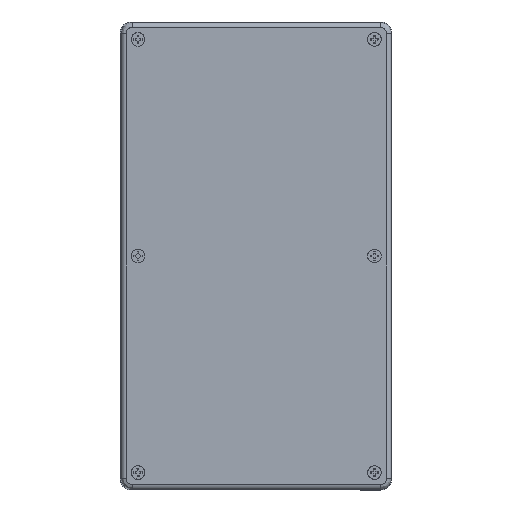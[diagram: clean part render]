
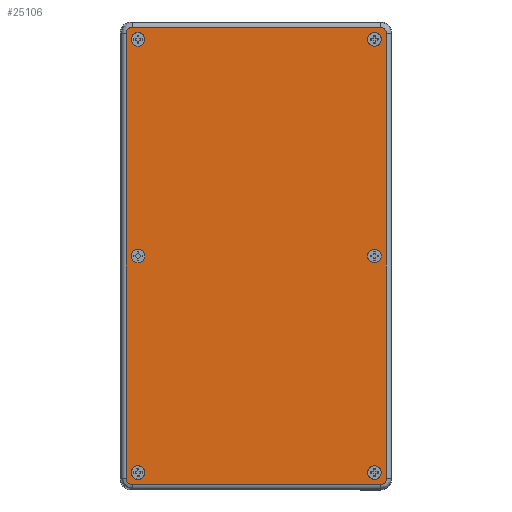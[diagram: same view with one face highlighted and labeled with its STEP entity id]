
A CAD part, top view. The second image highlights one B-rep face of the part: STEP entity #25106.
In plain terms, the highlighted planar face has unit normal (0, 0, 1) as drawn and (0, -1, 0) by its records, which use the part's own axes.
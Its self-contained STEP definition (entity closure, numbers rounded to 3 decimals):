
#432=FACE_BOUND('',#4331,.T.);
#433=FACE_BOUND('',#4332,.T.);
#434=FACE_BOUND('',#4333,.T.);
#435=FACE_BOUND('',#4334,.T.);
#436=FACE_BOUND('',#4335,.T.);
#437=FACE_BOUND('',#4336,.T.);
#1012=PLANE('',#27439);
#1564=CIRCLE('',#27367,2.809);
#1568=CIRCLE('',#27375,2.809);
#1572=CIRCLE('',#27382,2.809);
#1576=CIRCLE('',#27389,2.809);
#1580=CIRCLE('',#27396,2.809);
#1584=CIRCLE('',#27404,2.809);
#2915=FACE_OUTER_BOUND('',#4330,.T.);
#4330=EDGE_LOOP('',(#22458,#22459,#22460,#22461,#22462,#22463,#22464,#22465));
#4331=EDGE_LOOP('',(#22466));
#4332=EDGE_LOOP('',(#22467));
#4333=EDGE_LOOP('',(#22468));
#4334=EDGE_LOOP('',(#22469));
#4335=EDGE_LOOP('',(#22470));
#4336=EDGE_LOOP('',(#22471));
#4950=ELLIPSE('',#27412,2.501,2.5);
#4953=ELLIPSE('',#27418,2.501,2.5);
#4956=ELLIPSE('',#27425,2.501,2.5);
#4959=ELLIPSE('',#27431,2.501,2.5);
#7519=LINE('',#43871,#9641);
#7525=LINE('',#43962,#9647);
#7527=LINE('',#43965,#9649);
#7529=LINE('',#43968,#9651);
#9641=VECTOR('',#33818,10.);
#9647=VECTOR('',#33850,10.);
#9649=VECTOR('',#33854,10.);
#9651=VECTOR('',#33858,10.);
#11792=VERTEX_POINT('',#43444);
#11797=VERTEX_POINT('',#43462);
#11801=VERTEX_POINT('',#43476);
#11805=VERTEX_POINT('',#43490);
#11809=VERTEX_POINT('',#43504);
#11814=VERTEX_POINT('',#43522);
#11821=VERTEX_POINT('',#43812);
#11823=VERTEX_POINT('',#43816);
#11827=VERTEX_POINT('',#43856);
#11829=VERTEX_POINT('',#43860);
#11833=VERTEX_POINT('',#43903);
#11835=VERTEX_POINT('',#43907);
#11839=VERTEX_POINT('',#43947);
#11841=VERTEX_POINT('',#43951);
#15352=EDGE_CURVE('',#11792,#11792,#1564,.F.);
#15362=EDGE_CURVE('',#11797,#11797,#1568,.F.);
#15368=EDGE_CURVE('',#11801,#11801,#1572,.F.);
#15376=EDGE_CURVE('',#11805,#11805,#1576,.F.);
#15382=EDGE_CURVE('',#11809,#11809,#1580,.F.);
#15392=EDGE_CURVE('',#11814,#11814,#1584,.F.);
#15411=EDGE_CURVE('',#11823,#11821,#4950,.T.);
#15418=EDGE_CURVE('',#11829,#11827,#4953,.T.);
#15423=EDGE_CURVE('',#11821,#11829,#7519,.T.);
#15427=EDGE_CURVE('',#11835,#11833,#4956,.T.);
#15434=EDGE_CURVE('',#11841,#11839,#4959,.T.);
#15439=EDGE_CURVE('',#11827,#11841,#7525,.T.);
#15441=EDGE_CURVE('',#11839,#11835,#7527,.T.);
#15443=EDGE_CURVE('',#11833,#11823,#7529,.T.);
#22458=ORIENTED_EDGE('',*,*,#15434,.F.);
#22459=ORIENTED_EDGE('',*,*,#15439,.F.);
#22460=ORIENTED_EDGE('',*,*,#15418,.F.);
#22461=ORIENTED_EDGE('',*,*,#15423,.F.);
#22462=ORIENTED_EDGE('',*,*,#15411,.F.);
#22463=ORIENTED_EDGE('',*,*,#15443,.F.);
#22464=ORIENTED_EDGE('',*,*,#15427,.F.);
#22465=ORIENTED_EDGE('',*,*,#15441,.F.);
#22466=ORIENTED_EDGE('',*,*,#15352,.T.);
#22467=ORIENTED_EDGE('',*,*,#15362,.T.);
#22468=ORIENTED_EDGE('',*,*,#15368,.T.);
#22469=ORIENTED_EDGE('',*,*,#15376,.T.);
#22470=ORIENTED_EDGE('',*,*,#15382,.T.);
#22471=ORIENTED_EDGE('',*,*,#15392,.T.);
#25106=ADVANCED_FACE('',(#2915,#432,#433,#434,#435,#436,#437),#1012,.F.);
#27367=AXIS2_PLACEMENT_3D('',#43445,#33674,#33675);
#27375=AXIS2_PLACEMENT_3D('',#43464,#33696,#33697);
#27382=AXIS2_PLACEMENT_3D('',#43477,#33712,#33713);
#27389=AXIS2_PLACEMENT_3D('',#43492,#33730,#33731);
#27396=AXIS2_PLACEMENT_3D('',#43505,#33746,#33747);
#27404=AXIS2_PLACEMENT_3D('',#43524,#33768,#33769);
#27412=AXIS2_PLACEMENT_3D('',#43818,#33793,#33794);
#27418=AXIS2_PLACEMENT_3D('',#43862,#33807,#33808);
#27425=AXIS2_PLACEMENT_3D('',#43909,#33825,#33826);
#27431=AXIS2_PLACEMENT_3D('',#43953,#33839,#33840);
#27439=AXIS2_PLACEMENT_3D('',#43973,#33865,#33866);
#33674=DIRECTION('center_axis',(0.,-1.,0.));
#33675=DIRECTION('ref_axis',(1.,0.,0.));
#33696=DIRECTION('center_axis',(0.,-1.,0.));
#33697=DIRECTION('ref_axis',(-1.,0.,0.));
#33712=DIRECTION('center_axis',(0.,-1.,0.));
#33713=DIRECTION('ref_axis',(1.,0.,0.));
#33730=DIRECTION('center_axis',(0.,-1.,0.));
#33731=DIRECTION('ref_axis',(1.,0.,0.));
#33746=DIRECTION('center_axis',(0.,-1.,0.));
#33747=DIRECTION('ref_axis',(-1.,0.,0.));
#33768=DIRECTION('center_axis',(0.,-1.,0.));
#33769=DIRECTION('ref_axis',(1.,0.,0.));
#33793=DIRECTION('center_axis',(0.,1.,0.));
#33794=DIRECTION('ref_axis',(0.707,0.,-0.707));
#33807=DIRECTION('center_axis',(0.,1.,0.));
#33808=DIRECTION('ref_axis',(-0.707,0.,-0.707));
#33818=DIRECTION('',(-1.,0.,0.));
#33825=DIRECTION('center_axis',(0.,1.,0.));
#33826=DIRECTION('ref_axis',(0.707,0.,0.707));
#33839=DIRECTION('center_axis',(0.,1.,0.));
#33840=DIRECTION('ref_axis',(-0.707,0.,0.707));
#33850=DIRECTION('',(0.,0.,1.));
#33854=DIRECTION('',(1.,0.,0.));
#33858=DIRECTION('',(0.,0.,-1.));
#33865=DIRECTION('center_axis',(0.,1.,0.));
#33866=DIRECTION('ref_axis',(0.,0.,1.));
#43444=CARTESIAN_POINT('',(-2.809,-3.8,48.1));
#43445=CARTESIAN_POINT('Origin',(0.,-3.8,48.1));
#43462=CARTESIAN_POINT('',(90.909,-3.8,48.1));
#43464=CARTESIAN_POINT('Origin',(88.1,-3.8,48.1));
#43476=CARTESIAN_POINT('',(-90.909,-3.8,48.1));
#43477=CARTESIAN_POINT('Origin',(-88.1,-3.8,48.1));
#43490=CARTESIAN_POINT('',(-2.809,-3.8,-48.1));
#43492=CARTESIAN_POINT('Origin',(0.,-3.8,-48.1));
#43504=CARTESIAN_POINT('',(90.909,-3.8,-48.1));
#43505=CARTESIAN_POINT('Origin',(88.1,-3.8,-48.1));
#43522=CARTESIAN_POINT('',(-90.909,-3.8,-48.1));
#43524=CARTESIAN_POINT('Origin',(-88.1,-3.8,-48.1));
#43812=CARTESIAN_POINT('',(90.469,-3.8,-52.968));
#43816=CARTESIAN_POINT('',(92.968,-3.8,-50.469));
#43818=CARTESIAN_POINT('Origin',(90.468,-3.8,-50.468));
#43856=CARTESIAN_POINT('',(-92.968,-3.8,-50.469));
#43860=CARTESIAN_POINT('',(-90.469,-3.8,-52.968));
#43862=CARTESIAN_POINT('Origin',(-90.468,-3.8,-50.468));
#43871=CARTESIAN_POINT('',(47.5,-3.8,-52.968));
#43903=CARTESIAN_POINT('',(92.968,-3.8,50.469));
#43907=CARTESIAN_POINT('',(90.469,-3.8,52.968));
#43909=CARTESIAN_POINT('Origin',(90.468,-3.8,50.468));
#43947=CARTESIAN_POINT('',(-90.469,-3.8,52.968));
#43951=CARTESIAN_POINT('',(-92.968,-3.8,50.469));
#43953=CARTESIAN_POINT('Origin',(-90.468,-3.8,50.468));
#43962=CARTESIAN_POINT('',(-92.968,-3.8,-27.5));
#43965=CARTESIAN_POINT('',(-47.5,-3.8,52.968));
#43968=CARTESIAN_POINT('',(92.968,-3.8,27.5));
#43973=CARTESIAN_POINT('Origin',(0.,-3.8,0.));
